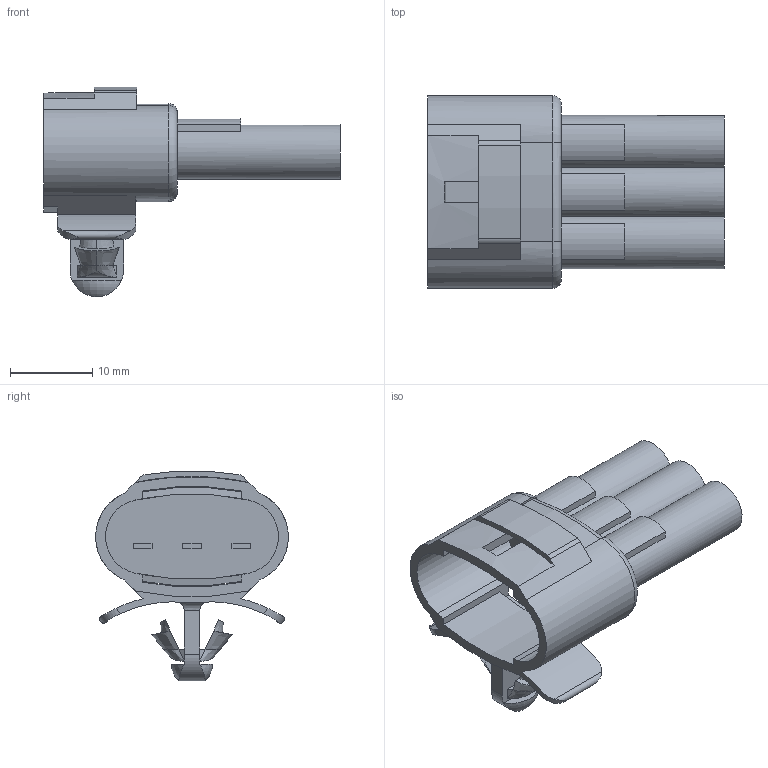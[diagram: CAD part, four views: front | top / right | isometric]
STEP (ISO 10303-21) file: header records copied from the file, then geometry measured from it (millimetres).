
FILE_DESCRIPTION(('CATIA V5 STEP Exchange','CAx-IF Rec.Pracs.--- Model Styling and Organization---1.2---2011-12-15'),'2;1');
FILE_NAME('N:\C-DAM_MyDesk\ENV\900093\6187-3281.stp','2015-01-22T03:07:43+00:00',('none'),('none'),'CATIA Version 5-6 Release 2012 SP4 HF74','CATIA V5 STEP AP214','none');
FILE_SCHEMA(('AUTOMOTIVE_DESIGN { 1 0 10303 214 1 1 1 1 }'));
Length unit declared in the file: millimetre
Products named in the file (1): 6187-3281
Bounding box: 36 x 23.4 x 25.45 mm (x, y, z)
Volume: 3665.4 mm3; surface area: 4041.3 mm2
Topology: 1 solids, 1 shells, 137 faces, 380 edges, 250 vertices
Faces by surface type: plane 68, cylinder 46, bspline 12, torus 8, cone 3
Entity records: 4963 total; most frequent: CARTESIAN_POINT 1698, ORIENTED_EDGE 760, DIRECTION 511, EDGE_CURVE 380, VERTEX_POINT 250, AXIS2_PLACEMENT_3D 214, VECTOR 191, LINE 191
